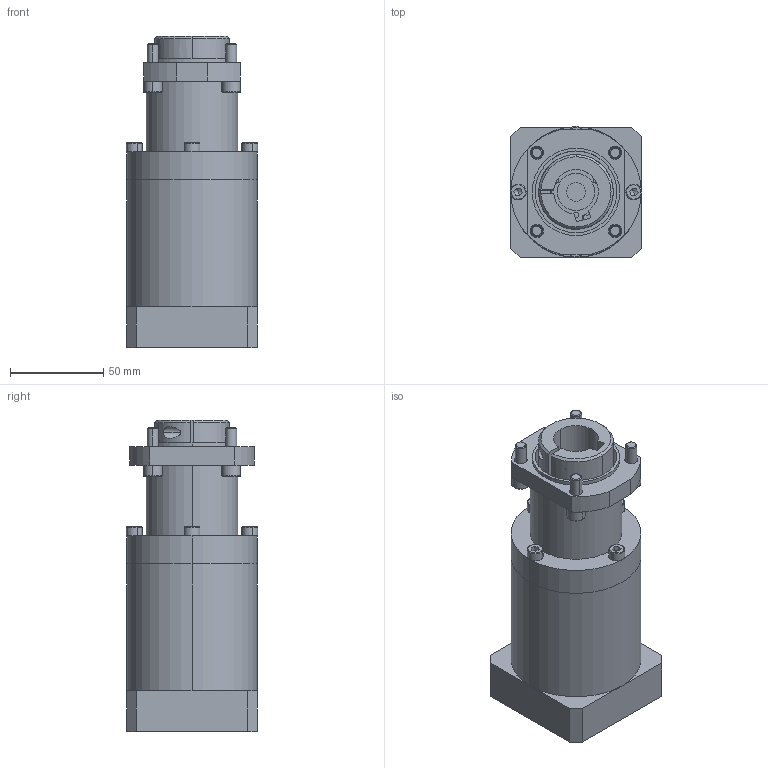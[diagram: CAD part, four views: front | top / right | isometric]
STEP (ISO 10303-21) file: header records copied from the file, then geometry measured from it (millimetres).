
FILE_DESCRIPTION (( 'STEP AP203' ), '1' );
FILE_NAME ('MAF060_5_MKU060_1_MPG60.STEP', '2013-09-30T13:40:20', ( 'Install' ), ( '' ), 'SwSTEP 2.0', 'SolidWorks 2013', '' );
FILE_SCHEMA (( 'CONFIG_CONTROL_DESIGN' ));
Length unit declared in the file: millimetre
Products named in the file (1): MAF060_5_MKU060_1_MPG60
Bounding box: 70.49 x 70.49 x 167 mm (x, y, z)
Volume: 503095.6 mm3; surface area: 92596.2 mm2
Topology: 13 solids, 13 shells, 442 faces, 1038 edges, 641 vertices
Faces by surface type: cylinder 190, plane 142, cone 78, torus 32
Entity records: 13240 total; most frequent: CARTESIAN_POINT 2865, DIRECTION 2307, ORIENTED_EDGE 2020, EDGE_CURVE 1010, AXIS2_PLACEMENT_3D 943, VERTEX_POINT 641, EDGE_LOOP 517, CIRCLE 500
